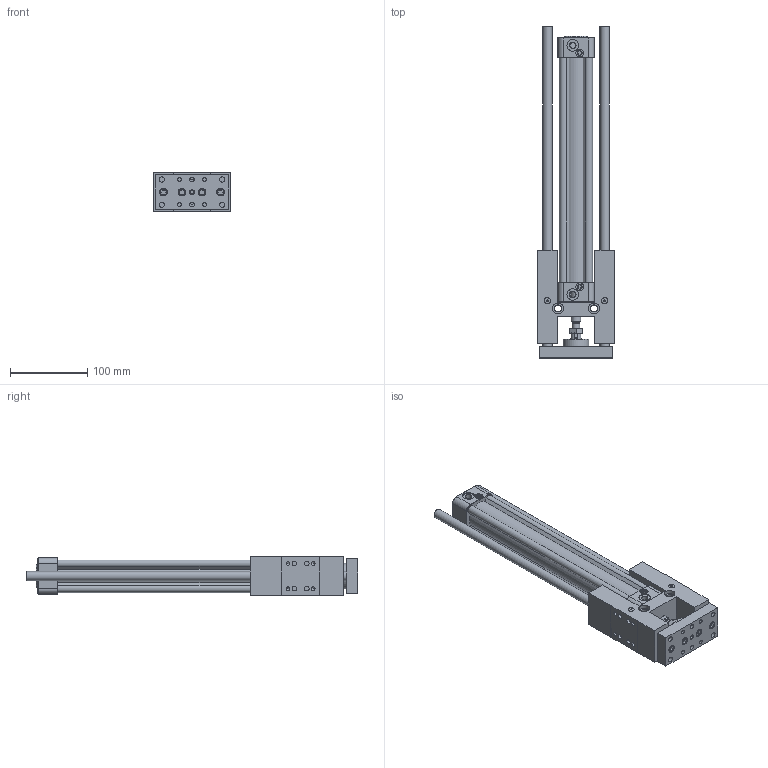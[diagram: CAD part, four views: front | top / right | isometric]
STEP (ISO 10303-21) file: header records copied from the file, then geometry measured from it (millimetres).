
FILE_DESCRIPTION((''),'2;1');
FILE_NAME('I:\3D電子目錄\氣缸\GHB(U)\GHB(U)\GHB(U)32\GHB(U)32x250.stp','2007-10-19T10:41:51',('Administrator'),(''),'Autodesk Inventor 11','Autodesk Inventor 11','');
FILE_SCHEMA(('AUTOMOTIVE_DESIGN { 1 0 10303 214 1 1 1 1 }'));
Length unit declared in the file: millimetre
Products named in the file (1): GHB(U)32
Bounding box: 99 x 429 x 50.2 mm (x, y, z)
Volume: 789114.7 mm3; surface area: 235178.5 mm2
Topology: 17 solids, 17 shells, 738 faces, 1598 edges, 986 vertices
Faces by surface type: plane 291, bspline 199, cylinder 159, cone 80, torus 9
Full cylindrical faces by diameter (mm): 2.6 x2, 4.9 x2, 4.917 x4, 5 x5, 5.5 x10, 6 x11, 6.5 x8, 7.5 x1, 7.8 x4, 7.9 x3, 8 x5, 9 x8, 10 x7, 10.2 x8, 12 x4, 13 x1, 14 x1, 15 x2, 17 x2, 30 x1, 32 x1, 33 x1
Entity records: 20771 total; most frequent: CARTESIAN_POINT 6160, DIRECTION 2934, ORIENTED_EDGE 2754, EDGE_CURVE 1377, AXIS2_PLACEMENT_3D 1157, EDGE_LOOP 1056, VERTEX_POINT 953, FACE_OUTER_BOUND 738
